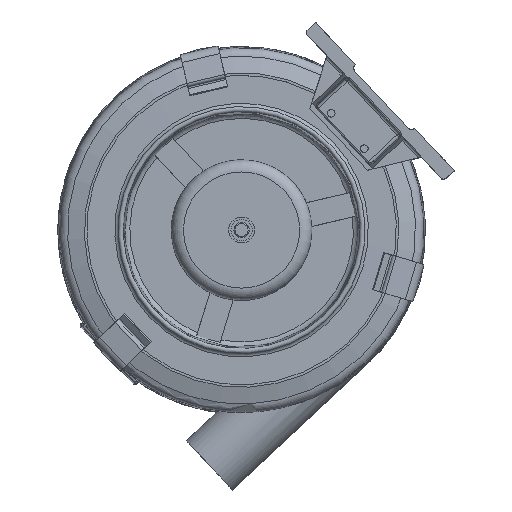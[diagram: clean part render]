
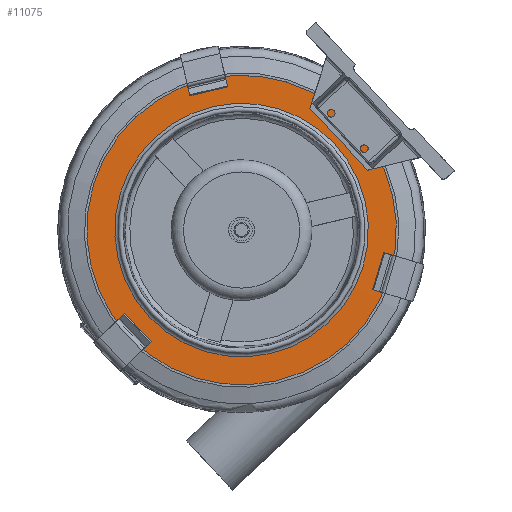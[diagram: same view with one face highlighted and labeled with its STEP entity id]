
A CAD part, top view. The second image highlights one B-rep face of the part: STEP entity #11075.
In plain terms, the highlighted conical face has half-angle 89.542 degrees and reference radius 92.401 mm.
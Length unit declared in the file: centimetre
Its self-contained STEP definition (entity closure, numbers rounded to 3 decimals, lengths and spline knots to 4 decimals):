
#389=CONICAL_SURFACE('',#11872,9.2401,89.542);
#484=FACE_BOUND('',#1782,.T.);
#1030=FACE_OUTER_BOUND('',#1781,.T.);
#1781=EDGE_LOOP('',(#7453));
#1782=EDGE_LOOP('',(#7454));
#3886=CIRCLE('',#11871,8.3201);
#3887=CIRCLE('',#11873,10.16);
#4537=VERTEX_POINT('',#18433);
#4538=VERTEX_POINT('',#18436);
#5649=EDGE_CURVE('',#4537,#4537,#3886,.T.);
#5650=EDGE_CURVE('',#4538,#4538,#3887,.T.);
#7453=ORIENTED_EDGE('',*,*,#5650,.F.);
#7454=ORIENTED_EDGE('',*,*,#5649,.T.);
#11075=ADVANCED_FACE('',(#1030,#484),#389,.T.);
#11871=AXIS2_PLACEMENT_3D('',#18434,#13502,#13503);
#11872=AXIS2_PLACEMENT_3D('',#18435,#13504,#13505);
#11873=AXIS2_PLACEMENT_3D('',#18437,#13506,#13507);
#13502=DIRECTION('center_axis',(0.,0.,
-1.));
#13503=DIRECTION('ref_axis',(0.731,0.682,0.));
#13504=DIRECTION('center_axis',(0.,0.,
-1.));
#13505=DIRECTION('ref_axis',(0.731,0.682,0.));
#13506=DIRECTION('center_axis',(0.,0.,
-1.));
#13507=DIRECTION('ref_axis',(0.731,0.682,0.));
#18433=CARTESIAN_POINT('',(6.0828,5.6767,2.9192));
#18434=CARTESIAN_POINT('Origin',(0.,0.,
2.9192));
#18435=CARTESIAN_POINT('Origin',(0.,0.,
2.9119));
#18436=CARTESIAN_POINT('',(7.4279,6.932,2.9045));
#18437=CARTESIAN_POINT('Origin',(0.,0.,
2.9045));
